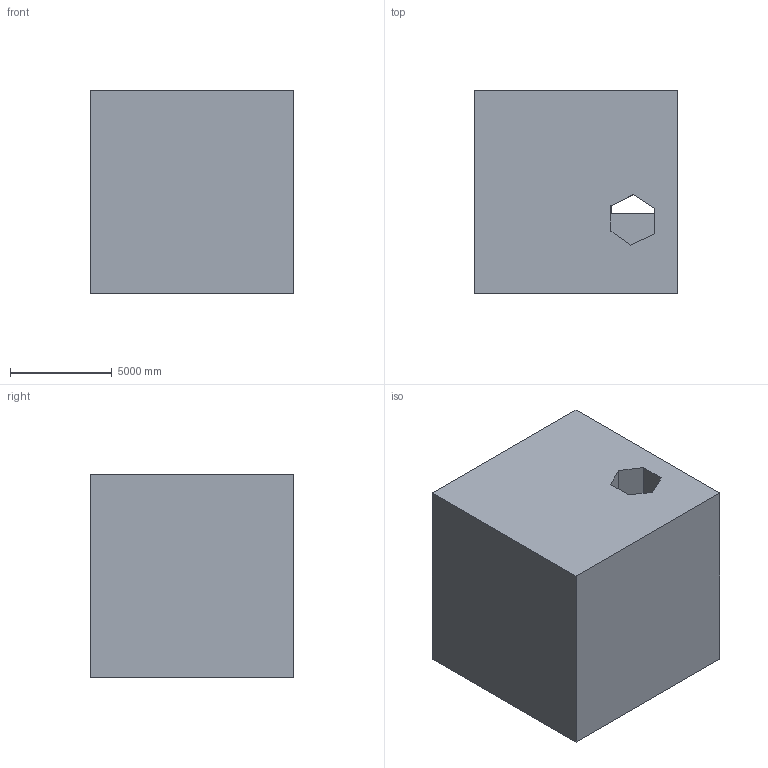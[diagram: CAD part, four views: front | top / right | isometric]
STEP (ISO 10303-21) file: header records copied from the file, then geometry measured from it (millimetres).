
FILE_DESCRIPTION (( 'STEP AP203' ), '1' );
FILE_NAME ('154.STEP', '2022-07-28T13:45:23', ( 'user' ), ( '' ), 'SwSTEP 2.0', 'SolidWorks 2021', '' );
FILE_SCHEMA (( 'CONFIG_CONTROL_DESIGN' ));
Length unit declared in the file: centimetre
Products named in the file (1): 154
Bounding box: 10000 x 10000 x 10000 mm (x, y, z)
Volume: 895242779275.6 mm3; surface area: 639884358 mm2
Topology: 1 solids, 1 shells, 15 faces, 42 edges, 28 vertices
Faces by surface type: plane 14, cylinder 1
Entity records: 560 total; most frequent: CARTESIAN_POINT 92, ORIENTED_EDGE 84, DIRECTION 75, EDGE_CURVE 42, LINE 37, VECTOR 37, VERTEX_POINT 28, AXIS2_PLACEMENT_3D 19
